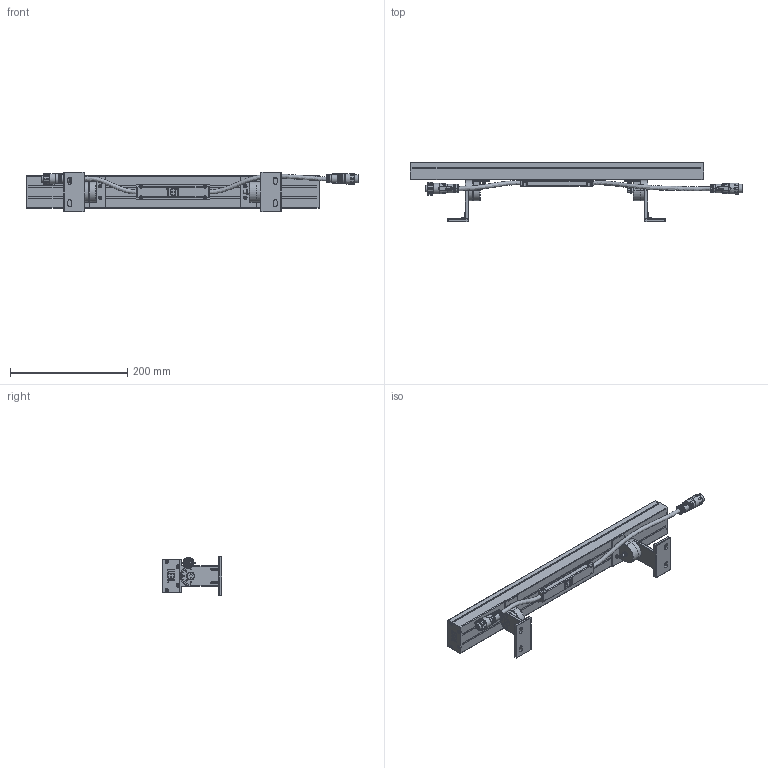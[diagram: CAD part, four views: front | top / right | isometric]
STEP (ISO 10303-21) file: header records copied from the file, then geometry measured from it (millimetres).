
FILE_DESCRIPTION (( 'STEP AP214' ), '1' );
FILE_NAME ('Linear G54 L500 12 LEDs VDC.STEP', '2025-07-08T12:38:29', ( '' ), ( '' ), 'SwSTEP 2.0', 'SolidWorks 2025', '' );
FILE_SCHEMA (( 'AUTOMOTIVE_DESIGN' ));
Length unit declared in the file: millimetre
Products named in the file (8): M16 5p Female; M16 5p Male; Linear G54 & G100 - Feet free rotation; Linear G54 - Body_L500 12 LEDs; Linear G54 & G100 - Feet fixed; Part80^Linear G54_L500 24V; Linear G54 L500 12 LEDs VDC; Linear G54 & G100 - VDC Bak_L1000 24V
Assembly tree (7 placements, depth 2):
  Linear G54 L500 12 LEDs VDC
    Linear G54 - Body_L500 12 LEDs
    M16 5p Female
    M16 5p Male
    Part80^Linear G54_L500 24V
    Linear G54 & G100 - VDC Bak_L1000 24V
    Linear G54 & G100 - Feet fixed
    Linear G54 & G100 - Feet free rotation
Bounding box: 565.3 x 101.5 x 67.3 mm (x, y, z)
Volume: 961165.2 mm3; surface area: 171652.5 mm2
Topology: 18 solids, 31 shells, 2797 faces, 6762 edges, 4147 vertices
Faces by surface type: plane 1513, cylinder 755, cone 186, torus 167, bspline 138, sphere 38
Full cylindrical faces by diameter (mm): 2.7 x4, 9.2 x1, 11.1 x1, 14.25 x1, 14.3 x1, 18 x1, 19 x12
Entity records: 102353 total; most frequent: CARTESIAN_POINT 31019, ORIENTED_EDGE 13322, DIRECTION 12346, EDGE_CURVE 6661, AXIS2_PLACEMENT_3D 4427, VERTEX_POINT 4135, VECTOR 3492, LINE 3492
